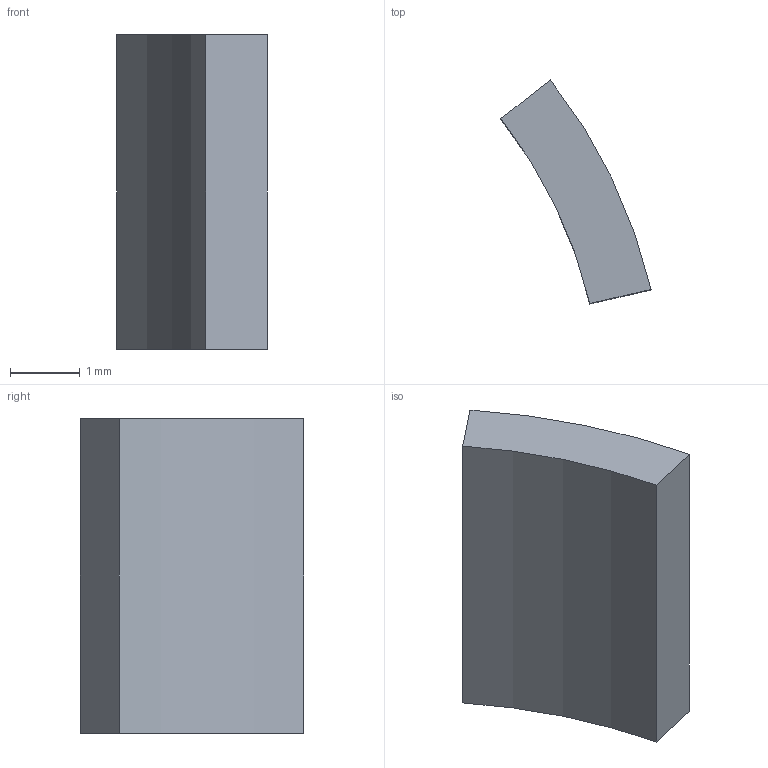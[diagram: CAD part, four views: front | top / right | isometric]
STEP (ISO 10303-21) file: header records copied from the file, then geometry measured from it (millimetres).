
FILE_DESCRIPTION(('Open CASCADE Model'),'2;1');
FILE_NAME('Open CASCADE Shape Model','2026-10-24T17:46:06',('Author'),( 'Open CASCADE'),'Open CASCADE STEP processor 8.0','Open CASCADE 8.0' ,'Unknown');
FILE_SCHEMA(('AUTOMOTIVE_DESIGN { 1 0 10303 214 1 1 1 1 }'));
Length unit declared in the file: millimetre
Products named in the file (1): Open CASCADE STEP translator 8.0 6
Bounding box: 2.15 x 3.2 x 4.5 mm (x, y, z)
Volume: 12.8 mm3; surface area: 42.2 mm2
Topology: 1 solids, 1 shells, 6 faces, 12 edges, 8 vertices
Faces by surface type: plane 4, cylinder 2
Entity records: 310 total; most frequent: CARTESIAN_POINT 67, DIRECTION 38, ORIENTED_EDGE 24, PCURVE 24, DEFINITIONAL_REPRESENTATION 24, B_SPLINE_CURVE_WITH_KNOTS 16, EDGE_CURVE 12, SURFACE_CURVE 12
